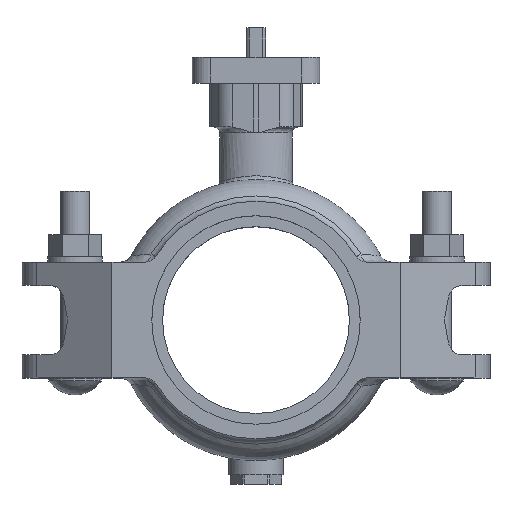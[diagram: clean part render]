
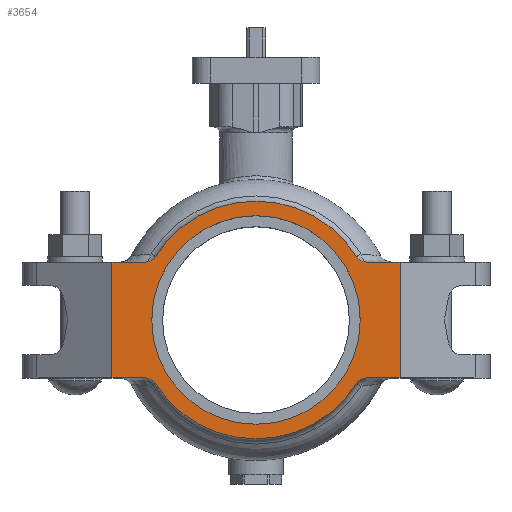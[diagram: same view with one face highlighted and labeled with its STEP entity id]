
A CAD part, top view. The second image highlights one B-rep face of the part: STEP entity #3654.
In plain terms, the highlighted planar face has unit normal (0, 0, 1).
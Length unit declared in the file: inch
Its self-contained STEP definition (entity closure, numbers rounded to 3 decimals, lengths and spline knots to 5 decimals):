
#156=FACE_BOUND('',#580,.T.);
#204=PLANE('',#4001);
#369=FACE_OUTER_BOUND('',#579,.T.);
#579=EDGE_LOOP('',(#2718,#2719,#2720,#2721,#2722,#2723,#2724,#2725,#2726,
#2727,#2728,#2729));
#580=EDGE_LOOP('',(#2730,#2731));
#789=LINE('',#6683,#1062);
#790=LINE('',#6685,#1063);
#791=LINE('',#6686,#1064);
#792=LINE('',#6688,#1065);
#793=LINE('',#6690,#1066);
#794=LINE('',#6691,#1067);
#1062=VECTOR('',#4736,0.3937);
#1063=VECTOR('',#4737,0.3937);
#1064=VECTOR('',#4738,0.3937);
#1065=VECTOR('',#4739,0.3937);
#1066=VECTOR('',#4740,0.3937);
#1067=VECTOR('',#4741,0.3937);
#1241=CIRCLE('',#3777,2.25);
#1242=CIRCLE('',#3778,2.25);
#1315=CIRCLE('',#3903,0.25);
#1327=CIRCLE('',#3923,2.565);
#1329=CIRCLE('',#3926,0.25);
#1351=CIRCLE('',#3961,0.25);
#1363=CIRCLE('',#3981,2.565);
#1365=CIRCLE('',#3984,0.25);
#1422=VERTEX_POINT('',#5251);
#1423=VERTEX_POINT('',#5253);
#1558=VERTEX_POINT('',#6228);
#1559=VERTEX_POINT('',#6230);
#1566=VERTEX_POINT('',#6272);
#1568=VERTEX_POINT('',#6278);
#1586=VERTEX_POINT('',#6520);
#1587=VERTEX_POINT('',#6522);
#1594=VERTEX_POINT('',#6564);
#1596=VERTEX_POINT('',#6570);
#1602=VERTEX_POINT('',#6682);
#1603=VERTEX_POINT('',#6684);
#1604=VERTEX_POINT('',#6687);
#1605=VERTEX_POINT('',#6689);
#1755=EDGE_CURVE('',#1423,#1422,#1241,.T.);
#1756=EDGE_CURVE('',#1422,#1423,#1242,.T.);
#1933=EDGE_CURVE('',#1558,#1559,#1315,.T.);
#1948=EDGE_CURVE('',#1559,#1566,#1327,.T.);
#1951=EDGE_CURVE('',#1566,#1568,#1329,.T.);
#1987=EDGE_CURVE('',#1586,#1587,#1351,.T.);
#2002=EDGE_CURVE('',#1587,#1594,#1363,.T.);
#2005=EDGE_CURVE('',#1594,#1596,#1365,.T.);
#2021=EDGE_CURVE('',#1602,#1586,#789,.T.);
#2022=EDGE_CURVE('',#1602,#1603,#790,.T.);
#2023=EDGE_CURVE('',#1568,#1603,#791,.T.);
#2024=EDGE_CURVE('',#1604,#1558,#792,.T.);
#2025=EDGE_CURVE('',#1605,#1604,#793,.T.);
#2026=EDGE_CURVE('',#1596,#1605,#794,.T.);
#2718=ORIENTED_EDGE('',*,*,#1987,.F.);
#2719=ORIENTED_EDGE('',*,*,#2021,.F.);
#2720=ORIENTED_EDGE('',*,*,#2022,.T.);
#2721=ORIENTED_EDGE('',*,*,#2023,.F.);
#2722=ORIENTED_EDGE('',*,*,#1951,.F.);
#2723=ORIENTED_EDGE('',*,*,#1948,.F.);
#2724=ORIENTED_EDGE('',*,*,#1933,.F.);
#2725=ORIENTED_EDGE('',*,*,#2024,.F.);
#2726=ORIENTED_EDGE('',*,*,#2025,.F.);
#2727=ORIENTED_EDGE('',*,*,#2026,.F.);
#2728=ORIENTED_EDGE('',*,*,#2005,.F.);
#2729=ORIENTED_EDGE('',*,*,#2002,.F.);
#2730=ORIENTED_EDGE('',*,*,#1755,.T.);
#2731=ORIENTED_EDGE('',*,*,#1756,.T.);
#3654=ADVANCED_FACE('',(#369,#156),#204,.T.);
#3777=AXIS2_PLACEMENT_3D('',#5254,#4188,#4189);
#3778=AXIS2_PLACEMENT_3D('',#5255,#4190,#4191);
#3903=AXIS2_PLACEMENT_3D('',#6231,#4522,#4523);
#3923=AXIS2_PLACEMENT_3D('',#6273,#4563,#4564);
#3926=AXIS2_PLACEMENT_3D('',#6279,#4570,#4571);
#3961=AXIS2_PLACEMENT_3D('',#6523,#4648,#4649);
#3981=AXIS2_PLACEMENT_3D('',#6565,#4689,#4690);
#3984=AXIS2_PLACEMENT_3D('',#6571,#4696,#4697);
#4001=AXIS2_PLACEMENT_3D('',#6681,#4734,#4735);
#4188=DIRECTION('center_axis',(0.,0.,-1.));
#4189=DIRECTION('ref_axis',(1.,0.,0.));
#4190=DIRECTION('center_axis',(0.,0.,-1.));
#4191=DIRECTION('ref_axis',(1.,0.,0.));
#4522=DIRECTION('center_axis',(0.,0.,1.));
#4523=DIRECTION('ref_axis',(-0.483,0.875,0.));
#4563=DIRECTION('center_axis',(0.,0.,-1.));
#4564=DIRECTION('ref_axis',(1.,0.,0.));
#4570=DIRECTION('center_axis',(0.,0.,1.));
#4571=DIRECTION('ref_axis',(0.483,0.875,0.));
#4648=DIRECTION('center_axis',(0.,0.,1.));
#4649=DIRECTION('ref_axis',(0.483,-0.875,0.));
#4689=DIRECTION('center_axis',(0.,0.,-1.));
#4690=DIRECTION('ref_axis',(1.,0.,0.));
#4696=DIRECTION('center_axis',(0.,0.,1.));
#4697=DIRECTION('ref_axis',(-0.483,-0.875,0.));
#4734=DIRECTION('center_axis',(0.,0.,1.));
#4735=DIRECTION('ref_axis',(1.,0.,0.));
#4736=DIRECTION('',(1.,0.,0.));
#4737=DIRECTION('',(0.,-1.,0.));
#4738=DIRECTION('',(-1.,0.,0.));
#4739=DIRECTION('',(-1.,0.,0.));
#4740=DIRECTION('',(0.,-1.,0.));
#4741=DIRECTION('',(1.,0.,0.));
#5251=CARTESIAN_POINT('',(0.,-2.25,2.175));
#5253=CARTESIAN_POINT('',(0.,2.25,2.175));
#5254=CARTESIAN_POINT('Origin',(0.,0.,2.175));
#5255=CARTESIAN_POINT('Origin',(0.,0.,2.175));
#6228=CARTESIAN_POINT('',(2.38206,-1.25,2.175));
#6230=CARTESIAN_POINT('',(2.17051,-1.36679,2.175));
#6231=CARTESIAN_POINT('Origin',(2.38206,-1.5,2.175));
#6272=CARTESIAN_POINT('',(-2.17051,-1.36679,2.175));
#6273=CARTESIAN_POINT('Origin',(0.,0.,2.175));
#6278=CARTESIAN_POINT('',(-2.38206,-1.25,2.175));
#6279=CARTESIAN_POINT('Origin',(-2.38206,-1.5,2.175));
#6520=CARTESIAN_POINT('',(-2.38206,1.25,2.175));
#6522=CARTESIAN_POINT('',(-2.17051,1.36679,2.175));
#6523=CARTESIAN_POINT('Origin',(-2.38206,1.5,2.175));
#6564=CARTESIAN_POINT('',(2.17051,1.36679,2.175));
#6565=CARTESIAN_POINT('Origin',(0.,0.,2.175));
#6570=CARTESIAN_POINT('',(2.38206,1.25,2.175));
#6571=CARTESIAN_POINT('Origin',(2.38206,1.5,2.175));
#6681=CARTESIAN_POINT('Origin',(0.,2.565,2.175));
#6682=CARTESIAN_POINT('',(-3.10772,1.25,2.175));
#6683=CARTESIAN_POINT('',(3.10772,1.25,2.175));
#6684=CARTESIAN_POINT('',(-3.10772,-1.25,2.175));
#6685=CARTESIAN_POINT('',(-3.10772,0.,2.175));
#6686=CARTESIAN_POINT('',(3.10772,-1.25,2.175));
#6687=CARTESIAN_POINT('',(3.10772,-1.25,2.175));
#6688=CARTESIAN_POINT('',(3.10772,-1.25,2.175));
#6689=CARTESIAN_POINT('',(3.10772,1.25,2.175));
#6690=CARTESIAN_POINT('',(3.10772,0.,2.175));
#6691=CARTESIAN_POINT('',(3.10772,1.25,2.175));
